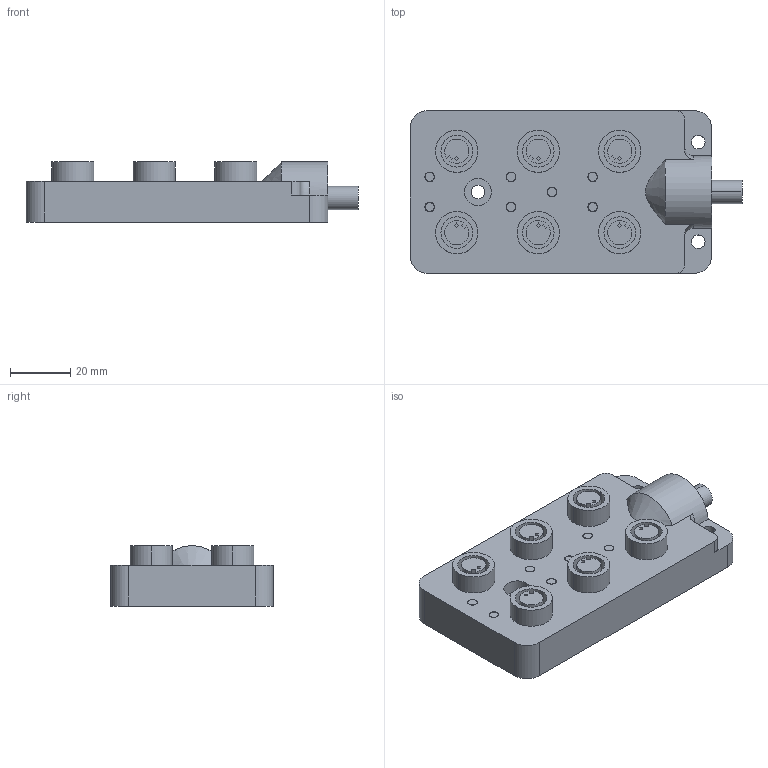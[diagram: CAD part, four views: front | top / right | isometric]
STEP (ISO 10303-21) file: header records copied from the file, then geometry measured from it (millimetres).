
FILE_DESCRIPTION (( 'STEP AP203' ), '1' );
FILE_NAME ('XW3B_P652_G11.step', '2006-09-19T01:30:08', ( 'OSMC1.0 ' ), ( ' ' ), 'SwSTEP 2.0', 'SolidWorks 2002025', '' );
FILE_SCHEMA (( 'CONFIG_CONTROL_DESIGN' ));
Length unit declared in the file: millimetre
Products named in the file (1): XW3B_P652_G11
Bounding box: 110 x 54 x 20 mm (x, y, z)
Volume: 77277.4 mm3; surface area: 20305.1 mm2
Topology: 1 solids, 1 shells, 202 faces, 480 edges, 320 vertices
Faces by surface type: plane 110, cylinder 89, torus 2, cone 1
Entity records: 6054 total; most frequent: CARTESIAN_POINT 1092, DIRECTION 1063, ORIENTED_EDGE 960, EDGE_CURVE 480, AXIS2_PLACEMENT_3D 385, VERTEX_POINT 320, VECTOR 293, LINE 293
